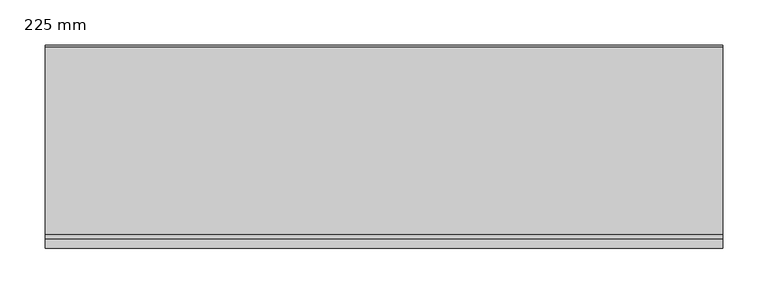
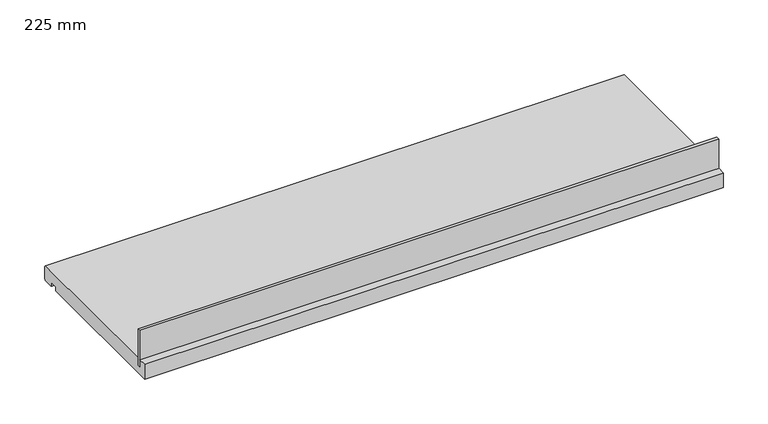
"""IFC4 building model written with IfcOpenShell, lengths in millimetres: proxy geometry, 400_35_NS_raamdorpel_kunststof_klik : 225 mm."""

from ifc_helpers import new_model, si_unit, frame, origin, place, context, project, spatial, polyline, outline, extrude, source, transform, mapped, element, save


def proxy_225_mm_9ad4d809(model_context):
    return source(origin(), model_context, "Body", "SweptSolid", [
        extrude(outline(polyline([(-375.0, 11.0), (-375.0, 15.0), (375.0, 15.0), (375.0, 11.0), (-375.0, 11.0)])), frame((0.0, 0.0, 10.0), z_axis=(0.0, 0.0, 1.0), x_axis=(1.0, 0.0, 0.0)), (0.0, 0.0, 1.0), 50.0),
        extrude(outline(polyline([(15.0, 20.0), (223.0, 20.0), (225.0, 18.0), (225.0, 2.0), (223.0, 0.0), (210.0, 0.0), (210.0, 5.0), (200.0, 5.0), (200.0, 0.0), (0.0, 0.0), (0.0, 20.0), (11.0, 20.0), (11.0, 10.0), (15.0, 10.0), (15.0, 20.0)])), frame((-375.0, 0.0, 0.0), z_axis=(1.0, 0.0, 0.0), x_axis=(0.0, 1.0, 0.0)), (0.0, 0.0, 1.0), 750.0),
    ])


if __name__ == "__main__":
    model = new_model("IFC4")
    model_context = context("Model", 3, world=origin())
    ifc_project = project(units=[si_unit("LENGTHUNIT", "METRE", prefix="MILLI")], contexts=[model_context])
    site = spatial("IfcSite", under=ifc_project)
    building = spatial("IfcBuilding", under=site)
    placement = place(None, origin())
    proxy_225_mm_shape = proxy_225_mm_9ad4d809(model_context)
    element("IfcBuildingElementProxy", 1, Name="400_35_NS_raamdorpel_kunststof_klik : 225 mm", ObjectType="400_35_NS_raamdorpel_kunststof_klik : 225 mm", at=placement, inside=building, context=model_context, shape_type="MappedRepresentation", body=[
        mapped(proxy_225_mm_shape, transform((0.0, 0.0, 0.0), x_axis=(1.0, 0.0, 0.0), y_axis=(0.0, 1.0, 0.0), z_axis=(0.0, 0.0, 1.0))),
    ])
    save(model, "model.ifc")
